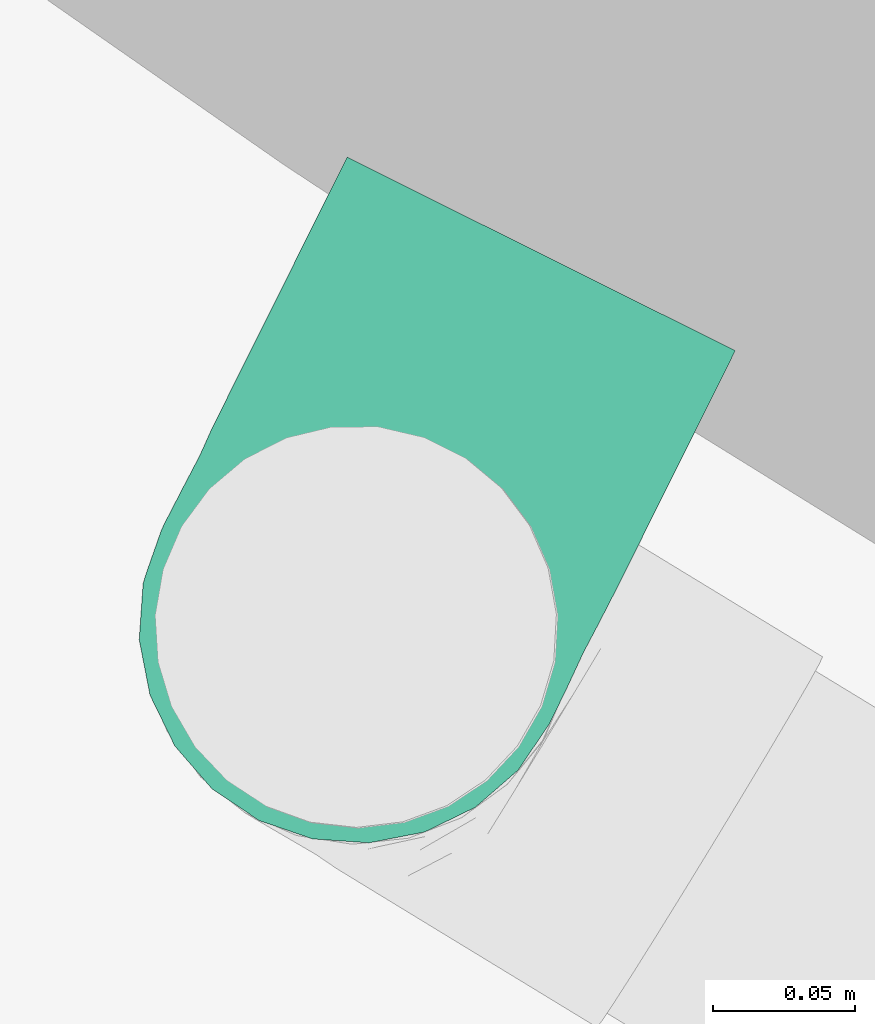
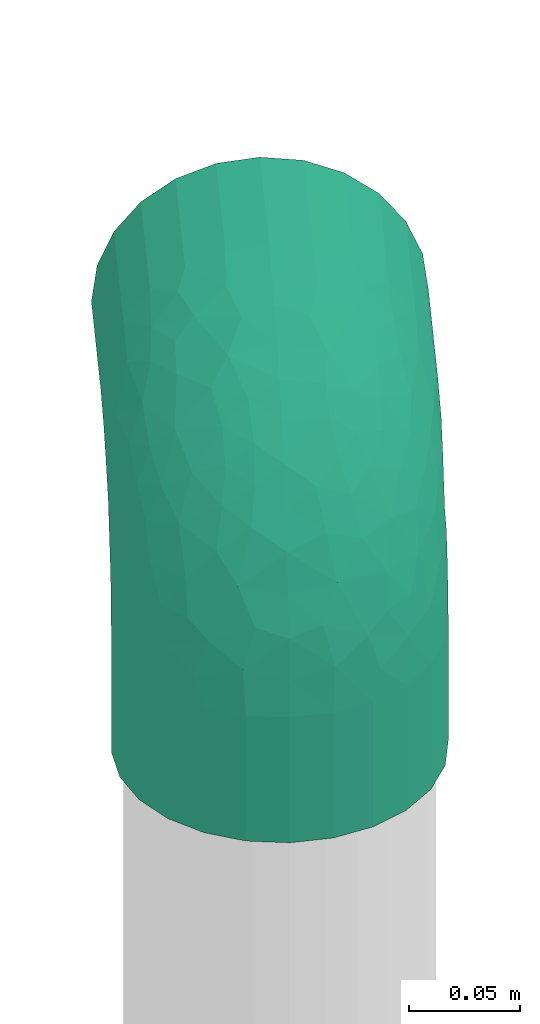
# One storey, part 44 of 47: 1 flow fitting.
"""IFC2X3 building model written with IfcOpenShell, lengths in metres."""

from ifc_helpers import new_model, entity, si_unit, converted_unit, derived_unit, direction, frame, origin, place, context, subcontext, project, spatial, faceted_brep, source, transform, mapped, type_object, type_shapes, element, save


model = new_model("IFC2X3")

# Units and contexts
model_context = context("Model", 3, precision=1e-05, world=origin(), true_north=direction((0.894925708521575, 0.446215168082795)))
context_of_model = context(None, 3, precision=1e-05, world=origin(), true_north=direction((0.894925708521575, 0.446215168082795)))
body_context = subcontext(model_context, "Body", "Model", "MODEL_VIEW")
ifc_project = project(units=[si_unit("LENGTHUNIT", "METRE"), si_unit("AREAUNIT", "SQUARE_METRE"), si_unit("VOLUMEUNIT", "CUBIC_METRE"), converted_unit("PLANEANGLEUNIT", "DEGREE", entity("IfcRatioMeasure", 0.0174532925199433), si_unit("PLANEANGLEUNIT", "RADIAN"), dimensions=[0, 0, 0, 0, 0, 0, 0]), si_unit("MASSUNIT", "GRAM", prefix="KILO"), si_unit("TIMEUNIT", "SECOND"), si_unit("FREQUENCYUNIT", "HERTZ"), si_unit("THERMODYNAMICTEMPERATUREUNIT", "DEGREE_CELSIUS"), derived_unit("THERMALTRANSMITTANCEUNIT", [(si_unit("MASSUNIT", "GRAM", prefix="KILO"), 1), (si_unit("THERMODYNAMICTEMPERATUREUNIT", "KELVIN"), -1), (si_unit("TIMEUNIT", "SECOND"), -3)]), derived_unit("VOLUMETRICFLOWRATEUNIT", [(si_unit("LENGTHUNIT", "METRE"), 3), (si_unit("TIMEUNIT", "SECOND"), -1)]), si_unit("ELECTRICCURRENTUNIT", "AMPERE"), si_unit("ELECTRICVOLTAGEUNIT", "VOLT"), si_unit("POWERUNIT", "WATT"), si_unit("FORCEUNIT", "NEWTON", prefix="KILO"), si_unit("ILLUMINANCEUNIT", "LUX"), si_unit("LUMINOUSFLUXUNIT", "LUMEN"), si_unit("LUMINOUSINTENSITYUNIT", "CANDELA"), si_unit("PRESSUREUNIT", "PASCAL")], contexts=[model_context, context_of_model])

# Site, building, storey
site_placement = place(None, frame((218.228324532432, 584.720189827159, 0.0), z_axis=(0.0, 0.0, 1.0), x_axis=(0.446215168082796, 0.894925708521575, 0.0)))
site = spatial("IfcSite", under=ifc_project, at=site_placement, Name="Default", CompositionType="ELEMENT")
building_placement = place(site_placement, origin())
building = spatial("IfcBuilding", under=site, at=building_placement, CompositionType="ELEMENT")
storey_placement = place(building_placement, frame((0.0, 0.0, 4.69)))
storey = spatial("IfcBuildingStorey", under=building, at=storey_placement, Name="1 - Piano Primo", CompositionType="ELEMENT", Elevation=4.69)

# Flow fitting
pipe_fitting_type = type_object("IfcPipeFittingType", Name="Standard", PredefinedType="NOTDEFINED")
shared_shape = source(origin(), body_context, "Body", "Brep", [
    faceted_brep([(-0.146258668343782, 0.0197274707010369, -0.073623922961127), (-0.14625866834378, 0.0, -0.0762210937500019), (-0.146258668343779, -0.0197274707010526, -0.0736239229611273), (-0.146258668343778, -0.0381105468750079, -0.0660094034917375), (-0.146258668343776, -0.0538964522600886, -0.0538964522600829), (-0.146258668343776, -0.0660094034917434, -0.0381105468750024), (-0.146258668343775, -0.0736239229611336, -0.0197274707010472), (-0.146258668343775, -0.0762210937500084, 0.0), (-0.146258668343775, -0.0736239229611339, 0.0197274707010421), (-0.146258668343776, -0.0660094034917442, 0.0381105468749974), (-0.146258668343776, -0.0538964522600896, 0.0538964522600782), (-0.146258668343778, -0.0381105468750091, 0.0660094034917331), (-0.146258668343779, -0.0197274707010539, 0.0736239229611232), (-0.14625866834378, 0.0, 0.0762210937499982), (-0.146258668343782, 0.0197274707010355, 0.0736239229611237), (-0.146258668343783, 0.0381105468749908, 0.0660094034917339), (-0.146258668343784, 0.0538964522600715, 0.0538964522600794), (-0.146258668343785, 0.0660094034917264, 0.0381105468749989), (-0.146258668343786, 0.0736239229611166, 0.0197274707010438), (-0.146258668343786, 0.0762210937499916, 0.0), (-0.146258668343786, 0.073623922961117, -0.0197274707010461), (-0.146258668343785, 0.0660094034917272, -0.0381105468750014), (-0.146258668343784, 0.0538964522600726, -0.0538964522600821), (-0.146258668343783, 0.0381105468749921, -0.0660094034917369), (-0.0770110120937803, -0.073623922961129, 0.0197274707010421), (-0.0770110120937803, -0.0660094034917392, 0.0381105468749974), (-0.0770110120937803, -0.0762210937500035, 0.0), (-0.0770110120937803, -0.0538964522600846, 0.0538964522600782), (-0.0770110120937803, -0.0381105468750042, 0.0660094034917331), (-0.0770110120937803, -0.019727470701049, 0.0736239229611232), (-0.0770110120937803, 0.0, 0.0762210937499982), (-0.0770110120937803, 0.0197274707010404, 0.0736239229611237), (-0.0770110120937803, 0.0381105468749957, 0.0660094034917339), (-0.0770110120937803, 0.0538964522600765, 0.0538964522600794), (-0.0770110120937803, 0.0660094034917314, 0.0381105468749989), (-0.0770110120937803, 0.0736239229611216, 0.0197274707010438), (-0.0770110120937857, 0.0762210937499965, 0.0), (-0.0770110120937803, 0.0736239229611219, -0.0197274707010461), (-0.0770110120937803, 0.0660094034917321, -0.0381105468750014), (-0.0770110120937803, 0.0538964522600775, -0.0538964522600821), (-0.0770110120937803, 0.038110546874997, -0.0660094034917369), (-0.0770110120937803, 0.0197274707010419, -0.073623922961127), (-0.0770110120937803, 0.0, -0.0762210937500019), (-0.0770110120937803, -0.0197274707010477, -0.0736239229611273), (-0.0770110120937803, -0.038110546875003, -0.0660094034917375), (-0.0770110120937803, -0.0538964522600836, -0.0538964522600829), (-0.0770110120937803, -0.0660094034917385, -0.0381105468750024), (-0.0770110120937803, -0.0736239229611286, -0.0197274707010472), (-0.052077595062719, -0.0505568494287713, 0.0548066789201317), (-0.0581726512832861, -0.0737410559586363, 0.0), (-0.053395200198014, -0.0714082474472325, 0.0209854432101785), (-0.0381067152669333, 0.0770129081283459, 0.0660094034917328), (-0.0538926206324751, 0.077013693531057, 0.0538964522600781), (-0.0427348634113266, 0.0610682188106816, 0.0653618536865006), (-0.0482753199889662, -0.0346316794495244, 0.0659168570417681), (-0.0348019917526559, -0.0442918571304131, 0.0562589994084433), (-0.0373518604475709, -0.0710000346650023, 0.0), (-0.0661072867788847, 0.0548845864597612, 0.0554052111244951), (-0.0623140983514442, -0.0626907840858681, 0.0422169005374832), (0.0505594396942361, 0.0520750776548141, 0.0548066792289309), (0.0549253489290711, 0.0349406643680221, 0.0450706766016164), (0.0629532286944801, 0.0425612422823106, 0.036104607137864), (-0.0240905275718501, 0.0542602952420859, 0.0737083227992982), (-0.0367745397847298, 0.0448904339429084, 0.0718192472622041), (-0.0579966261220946, -0.0149382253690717, 0.0743276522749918), (-0.0327553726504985, -0.0680825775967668, 0.0152416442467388), (-0.0425643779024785, -0.0629511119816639, 0.0361046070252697), (-0.0275729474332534, 0.02912154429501, 0.0757806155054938), (-0.043063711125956, 0.0321575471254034, 0.0733394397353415), (-0.0188735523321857, -0.0633463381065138, 0.0), (-0.000492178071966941, -0.0523766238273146, 0.0208670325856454), (0.0127248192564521, -0.04321406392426, 0.02188990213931), (-0.00154434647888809, -0.0469054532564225, 0.0342821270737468), (-0.0516380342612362, 0.00410406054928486, 0.0762208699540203), (-0.0347660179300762, -0.0160059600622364, 0.0719525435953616), (-0.057927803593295, 0.0243282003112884, 0.0732772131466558), (-0.0700353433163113, 0.0700388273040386, 0.0360638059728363), (-0.0197612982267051, -0.0318055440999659, 0.0608161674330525), (-0.0764497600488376, 0.0764535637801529, 0.0), (-0.0672449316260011, 0.0433806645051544, 0.0636110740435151), (0.0197313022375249, 0.0770100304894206, 0.0736239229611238), (0.0149411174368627, 0.0579958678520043, 0.0743276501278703), (0.0346340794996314, 0.0482735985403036, 0.0659168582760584), (-0.0736200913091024, 0.0770146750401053, 0.0197274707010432), (-0.0197236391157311, 0.0770119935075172, 0.073623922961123), (-0.00444143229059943, 0.05533673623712, 0.0762104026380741), (-0.0183505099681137, -0.0480767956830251, 0.0455035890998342), (-0.0046030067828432, -0.0403726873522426, 0.045824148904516), (-0.0587397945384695, 0.062304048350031, 0.0542332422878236), (3.83156089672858e-06, 0.0770110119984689, 0.0762210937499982), (0.0595730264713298, 0.0153752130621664, 0.0224695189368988), (0.0680842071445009, 0.0327519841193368, 0.0152416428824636), (0.0381143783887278, 0.0770091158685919, 0.0660094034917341), (0.0539002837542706, 0.0770083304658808, 0.0538964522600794), (0.0626938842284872, 0.0623109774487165, 0.0422169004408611), (0.0660132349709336, 0.0770077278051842, 0.0381105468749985), (0.0318065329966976, 0.0197597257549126, 0.0608161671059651), (0.0160076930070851, 0.03476520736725, 0.0719525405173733), (0.0714109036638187, 0.0533916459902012, 0.0209854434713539), (0.0736277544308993, 0.0770073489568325, 0.0197274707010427), (-0.0385602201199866, 0.0163991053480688, 0.076041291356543), (0.0737439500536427, 0.0581689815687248, 0.0), (-0.0660055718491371, 0.0770142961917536, 0.0381105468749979), (0.00829247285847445, -0.031202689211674, 0.0459925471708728), (0.0144576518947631, -0.0358970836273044, 0.0338398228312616), (0.0235282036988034, -0.0237578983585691, 0.0392566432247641), (-0.0245386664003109, 0.0052887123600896, 0.0752933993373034), (-0.0124014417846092, 0.0394306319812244, 0.076187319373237), (-0.0762172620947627, 0.0770148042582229, 0.0), (0.049550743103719, -0.00549299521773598, 0.0179967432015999), (0.0556926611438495, 0.000392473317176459, 0.0), (-0.004584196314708, 0.0220234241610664, 0.0749386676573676), (0.048077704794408, 0.0183481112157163, 0.0455035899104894), (0.0442935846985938, 0.0347997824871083, 0.0562590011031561), (0.00203149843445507, 0.0376124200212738, 0.075378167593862), (-0.0507463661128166, 0.0540901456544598, 0.0635044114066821), (-0.00039524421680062, -0.0556926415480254, 0.0), (-0.0153781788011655, -0.0595722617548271, 0.0224695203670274), (0.0710018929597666, 0.0373483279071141, 0.0), (0.0633472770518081, 0.0188704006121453, 0.0), (-0.0349434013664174, -0.0549236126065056, 0.0450706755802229), (-0.0534436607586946, 0.0430712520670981, 0.0673479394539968), (-0.0137009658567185, -0.0123484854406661, 0.0689439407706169), (0.0218607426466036, 0.00254769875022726, 0.0601902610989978), (0.0105619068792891, 0.0137053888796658, 0.0696118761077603), (0.00568813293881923, -0.00568842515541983, 0.0649173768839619), (-0.00649275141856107, 0.00395980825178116, 0.0721685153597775), (0.0154726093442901, -0.0435173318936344, 0.0), (0.0376057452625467, -0.0226733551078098, 0.0141884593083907), (0.0259789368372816, -0.0307814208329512, 0.0248041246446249), (0.0313404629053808, -0.0313420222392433, 0.0), (0.0363996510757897, -0.0162784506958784, 0.0305348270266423), (0.0341740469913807, -0.00153612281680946, 0.0481105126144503), (0.0462987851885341, 0.000782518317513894, 0.0345192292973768), (-0.00129296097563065, -0.0225375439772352, 0.0591592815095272), (0.0165762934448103, -0.0149315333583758, 0.0536089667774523), (0.0762249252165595, 0.0770072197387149, 0.0), (0.0435165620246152, -0.0154747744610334, 0.0), (-0.0542590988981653, 0.0240932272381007, -0.073708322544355), (0.0229956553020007, -0.037613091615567, -0.0129873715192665), (0.00572198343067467, -0.050291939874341, -0.014582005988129), (0.0134181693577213, -0.0406028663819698, -0.0268179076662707), (-0.0579966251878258, -0.0149382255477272, -0.0743276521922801), (0.0273403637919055, -0.028771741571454, -0.0261946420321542), (0.0372572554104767, -0.0232292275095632, -0.0136323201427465), (-0.0553365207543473, 0.00444418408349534, -0.0762104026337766), (-0.0197612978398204, -0.0318055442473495, -0.0608161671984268), (-0.0183505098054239, -0.0480767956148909, -0.0455035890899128), (-0.0348019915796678, -0.0442918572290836, -0.0562589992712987), (-0.0700353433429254, 0.0700388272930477, -0.0360638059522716), (-0.0736200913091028, 0.0770146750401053, -0.0197274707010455), (0.031806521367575, 0.0197597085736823, -0.060816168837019), (0.0160076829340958, 0.0347652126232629, -0.0719525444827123), (0.0346340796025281, 0.0482735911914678, -0.0659168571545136), (-0.0433773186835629, 0.0672470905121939, -0.0636110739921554), (-0.0538926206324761, 0.077013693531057, -0.0538964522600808), (-0.0381067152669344, 0.0770129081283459, -0.0660094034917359), (-0.0197236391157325, 0.0770119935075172, -0.0736239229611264), (-0.0243253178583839, 0.0579290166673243, -0.0732772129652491), (-0.0448886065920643, 0.0367767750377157, -0.0718192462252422), (-0.0291201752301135, 0.0275743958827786, -0.0757806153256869), (-0.0321554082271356, 0.0430653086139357, -0.0733394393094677), (-0.0163971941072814, 0.0385610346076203, -0.0760412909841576), (-0.0349434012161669, -0.0549236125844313, -0.0450706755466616), (-0.0153781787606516, -0.0595722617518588, -0.0224695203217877), (-0.0425643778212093, -0.0629511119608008, -0.0361046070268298), (-0.0220232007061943, 0.00458529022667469, -0.0749386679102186), (-0.0052874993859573, 0.0245389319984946, -0.0752934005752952), (-0.0533952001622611, -0.0714082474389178, -0.0209854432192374), (-0.0623011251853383, 0.058742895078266, -0.0542332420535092), (-0.0520775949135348, -0.0505568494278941, -0.05480667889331), (-0.0482753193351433, -0.0346316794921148, -0.0659168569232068), (-0.0327553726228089, -0.0680825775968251, -0.0152416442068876), (-0.0548812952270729, 0.0661100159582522, -0.055405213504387), (-0.0660055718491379, 0.0770142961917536, -0.0381105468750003), (-0.0623140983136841, -0.0626907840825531, -0.0422169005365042), (-0.0610660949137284, 0.0427379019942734, -0.0653618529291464), (0.0680842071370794, 0.0327519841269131, -0.0152416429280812), (0.0381143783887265, 0.0770091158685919, -0.0660094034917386), (0.0539002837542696, 0.0770083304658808, -0.0538964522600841), (0.0505594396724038, 0.0520750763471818, -0.0548066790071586), (-0.0376125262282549, -0.00202962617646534, -0.0753781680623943), (-0.00410149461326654, 0.0516382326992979, -0.076220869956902), (0.0736277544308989, 0.0770073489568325, -0.0197274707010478), (0.0714109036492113, 0.0533916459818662, -0.0209854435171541), (0.0660132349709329, 0.0770077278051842, -0.0381105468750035), (-0.0347660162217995, -0.016005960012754, -0.0719525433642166), (3.83156089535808e-06, 0.0770110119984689, -0.0762210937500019), (0.014941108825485, 0.0579958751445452, -0.0743276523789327), (0.0388466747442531, -0.0146605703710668, -0.0284160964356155), (0.0197313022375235, 0.0770100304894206, -0.0736239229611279), (0.0233881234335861, -0.0224175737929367, -0.0409459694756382), (0.0629532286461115, 0.0425612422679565, -0.0361046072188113), (0.0626938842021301, 0.0623109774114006, -0.0422169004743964), (0.0442935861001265, 0.0347997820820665, -0.0562589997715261), (-0.0394300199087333, 0.0124034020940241, -0.0761873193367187), (-0.0540876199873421, 0.0507490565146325, -0.0635044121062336), (0.0595730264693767, 0.0153752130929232, -0.0224695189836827), (0.0549253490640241, 0.0349406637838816, -0.0450706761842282), (-0.0430685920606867, 0.0534458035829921, -0.0673479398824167), (0.00744654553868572, 0.0129300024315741, -0.0704871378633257), (0.0205982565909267, 0.00482995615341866, -0.0619638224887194), (-0.013178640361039, -0.0156074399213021, -0.0674636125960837), (-0.00598604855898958, 0.00230596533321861, -0.071625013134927), (-0.00357008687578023, -0.050103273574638, -0.0306361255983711), (0.00377112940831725, -0.0332429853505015, -0.0474260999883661), (0.0480777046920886, 0.018348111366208, -0.0455035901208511), (0.0337262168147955, -0.00262691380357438, -0.0477787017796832), (0.0481532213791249, -0.00850397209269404, -0.0157540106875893), (0.0491638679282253, 0.00290870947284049, -0.0317075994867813), (0.000841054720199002, -0.0216138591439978, -0.0586858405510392), (0.0184583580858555, -0.0118741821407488, -0.0543596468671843), (0.00568813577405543, -0.00568842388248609, -0.064917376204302), (7.27686831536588e-06, 0.146258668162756, -0.0762210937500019), (-0.0197201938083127, 0.146259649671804, -0.073623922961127), (-0.038103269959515, 0.146260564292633, -0.0660094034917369), (-0.0538891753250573, 0.146261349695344, -0.0538964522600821), (-0.0660021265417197, 0.146261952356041, -0.0381105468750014), (-0.0736166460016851, 0.146262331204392, -0.0197274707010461), (-0.0762138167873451, 0.14626246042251, 0.0), (-0.0736166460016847, 0.146262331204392, 0.0197274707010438), (-0.066002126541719, 0.146261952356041, 0.0381105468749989), (-0.0538891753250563, 0.146261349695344, 0.0538964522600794), (-0.0381032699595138, 0.146260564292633, 0.0660094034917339), (-0.0197201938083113, 0.146259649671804, 0.0736239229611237), (7.27686831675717e-06, 0.146258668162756, 0.0762210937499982), (0.0197347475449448, 0.146257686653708, 0.0736239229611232), (0.0381178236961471, 0.146256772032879, 0.0660094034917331), (0.0539037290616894, 0.146255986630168, 0.0538964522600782), (0.0660166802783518, 0.146255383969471, 0.0381105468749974), (0.073631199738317, 0.14625500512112, 0.0197274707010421), (0.076228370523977, 0.146254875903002, 0.0), (0.0736311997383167, 0.14625500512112, -0.0197274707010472), (0.066016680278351, 0.146255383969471, -0.0381105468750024), (0.0539037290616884, 0.146255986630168, -0.0538964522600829), (0.0381178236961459, 0.146256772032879, -0.0660094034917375), (0.0197347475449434, 0.146257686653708, -0.0736239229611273)], [[[0, 1, 2, 3, 4, 5, 6, 7, 8, 9, 10, 11, 12, 13, 14, 15, 16, 17, 18, 19, 20, 21, 22, 23]], [[24, 25, 9, 8]], [[26, 24, 8, 7]], [[11, 10, 27, 28]], [[25, 27, 10, 9]], [[29, 12, 11, 28]], [[29, 30, 13, 12]], [[15, 14, 31, 32]], [[33, 16, 15, 32]], [[18, 17, 34, 35]], [[33, 34, 17, 16]], [[19, 18, 35, 36]], [[31, 14, 13, 30]], [[20, 19, 36, 37]], [[38, 21, 20, 37]], [[23, 22, 39, 40]], [[38, 39, 22, 21]], [[0, 23, 40, 41]], [[41, 42, 1, 0]], [[3, 2, 43, 44]], [[45, 4, 3, 44]], [[6, 5, 46, 47]], [[45, 46, 5, 4]], [[7, 6, 47, 26]], [[43, 2, 1, 42]], [[28, 27, 48]], [[49, 50, 24]], [[51, 52, 53]], [[54, 48, 55]], [[56, 50, 49]], [[57, 34, 33]], [[58, 27, 25]], [[59, 60, 61]], [[62, 53, 63]], [[28, 48, 54]], [[64, 30, 29]], [[50, 65, 66]], [[67, 63, 68]], [[69, 65, 56]], [[70, 71, 72]], [[30, 73, 31]], [[54, 74, 64]], [[31, 73, 75]], [[73, 30, 64]], [[53, 62, 51]], [[29, 28, 54]], [[34, 76, 35]], [[54, 55, 77]], [[78, 36, 35]], [[57, 33, 79]], [[80, 81, 82]], [[83, 78, 35]], [[84, 62, 85]], [[86, 72, 87]], [[52, 88, 53]], [[24, 50, 25]], [[85, 81, 89]], [[61, 90, 91]], [[92, 59, 93]], [[93, 94, 95]], [[92, 80, 82]], [[96, 82, 97]], [[98, 99, 95]], [[67, 68, 100]], [[82, 59, 92]], [[60, 90, 61]], [[98, 101, 99]], [[76, 88, 102]], [[103, 104, 105]], [[88, 52, 102]], [[62, 63, 67]], [[106, 73, 74]], [[35, 76, 83]], [[107, 85, 62]], [[108, 78, 83]], [[90, 109, 110]], [[85, 89, 84]], [[31, 75, 32]], [[67, 106, 111]], [[77, 74, 54]], [[79, 33, 32]], [[84, 51, 62]], [[96, 112, 113]], [[107, 67, 111]], [[89, 81, 80]], [[85, 114, 81]], [[115, 53, 88]], [[116, 117, 69]], [[58, 50, 66]], [[94, 98, 95]], [[118, 91, 119]], [[113, 59, 82]], [[94, 59, 61]], [[58, 48, 27]], [[120, 48, 66]], [[106, 67, 100]], [[79, 75, 121]], [[76, 34, 57]], [[102, 83, 76]], [[122, 74, 77]], [[123, 124, 125]], [[106, 122, 126]], [[111, 114, 107]], [[65, 50, 56]], [[127, 70, 116]], [[120, 117, 86]], [[128, 129, 130]], [[70, 72, 117]], [[128, 109, 131]], [[112, 96, 132]], [[119, 90, 110]], [[98, 91, 118]], [[109, 133, 131]], [[111, 126, 124]], [[132, 131, 133]], [[72, 71, 104]], [[77, 134, 122]], [[104, 71, 129]], [[103, 135, 134]], [[125, 135, 123]], [[135, 103, 105]], [[69, 117, 65]], [[66, 65, 117]], [[61, 91, 98]], [[90, 119, 91]], [[24, 26, 49]], [[101, 98, 118]], [[101, 136, 99]], [[82, 81, 97]], [[54, 64, 29]], [[73, 64, 74]], [[133, 90, 112]], [[109, 128, 137]], [[137, 128, 130]], [[137, 110, 109]], [[129, 128, 131]], [[129, 131, 105]], [[129, 71, 130]], [[131, 132, 105]], [[135, 125, 134]], [[105, 132, 135]], [[123, 132, 96]], [[134, 125, 122]], [[134, 77, 87]], [[126, 122, 125]], [[106, 74, 122]], [[132, 123, 135]], [[124, 96, 97]], [[96, 124, 123]], [[114, 124, 97]], [[124, 126, 125]], [[106, 126, 111]], [[90, 133, 109]], [[132, 133, 112]], [[105, 104, 129]], [[87, 72, 104]], [[87, 104, 103]], [[117, 72, 86]], [[117, 116, 70]], [[127, 130, 71]], [[115, 63, 53]], [[68, 63, 121]], [[121, 75, 68]], [[100, 75, 73]], [[75, 100, 68]], [[73, 106, 100]], [[67, 107, 62]], [[111, 124, 114]], [[81, 114, 97]], [[85, 107, 114]], [[134, 87, 103]], [[77, 86, 87]], [[75, 79, 32]], [[121, 115, 57]], [[121, 57, 79]], [[57, 88, 76]], [[50, 58, 25]], [[48, 58, 66]], [[59, 94, 93]], [[98, 94, 61]], [[57, 115, 88]], [[63, 115, 121]], [[96, 113, 82]], [[60, 113, 112]], [[113, 60, 59]], [[90, 60, 112]], [[117, 120, 66]], [[55, 120, 86]], [[120, 55, 48]], [[77, 55, 86]], [[70, 127, 71]], [[41, 40, 138]], [[139, 140, 141]], [[43, 42, 142]], [[143, 144, 139]], [[42, 41, 145]], [[146, 147, 148]], [[149, 37, 150]], [[151, 152, 153]], [[154, 155, 156]], [[157, 158, 156]], [[159, 160, 138]], [[160, 161, 162]], [[163, 164, 165]], [[166, 160, 167]], [[46, 168, 47]], [[149, 169, 38]], [[168, 49, 47]], [[160, 159, 161]], [[170, 44, 171]], [[170, 163, 165]], [[164, 172, 165]], [[44, 43, 171]], [[173, 174, 155]], [[175, 46, 45]], [[40, 39, 176]], [[45, 44, 170]], [[119, 177, 118]], [[178, 179, 180]], [[37, 36, 78]], [[145, 181, 142]], [[78, 108, 150]], [[167, 182, 152]], [[38, 37, 149]], [[183, 184, 185]], [[146, 171, 186]], [[154, 173, 155]], [[182, 187, 188]], [[143, 189, 144]], [[182, 157, 187]], [[153, 152, 188]], [[138, 40, 176]], [[182, 158, 157]], [[190, 178, 153]], [[190, 188, 187]], [[191, 143, 141]], [[43, 142, 171]], [[183, 136, 101]], [[177, 192, 184]], [[193, 179, 185]], [[178, 180, 153]], [[184, 183, 101]], [[39, 38, 169]], [[184, 101, 118]], [[153, 194, 151]], [[195, 145, 138]], [[153, 180, 194]], [[41, 138, 145]], [[138, 176, 159]], [[196, 176, 169]], [[150, 37, 78]], [[195, 160, 166]], [[39, 169, 176]], [[175, 168, 46]], [[56, 172, 69]], [[110, 197, 119]], [[193, 184, 192]], [[148, 170, 171]], [[175, 170, 165]], [[193, 180, 179]], [[198, 180, 192]], [[167, 160, 162]], [[154, 158, 199]], [[150, 174, 149]], [[149, 174, 173]], [[200, 152, 201]], [[202, 166, 203]], [[167, 200, 203]], [[166, 181, 195]], [[69, 164, 116]], [[168, 172, 56]], [[204, 141, 140]], [[205, 147, 146]], [[151, 206, 207]], [[141, 205, 191]], [[197, 208, 209]], [[177, 184, 118]], [[197, 110, 208]], [[198, 197, 206]], [[202, 186, 166]], [[205, 141, 204]], [[210, 146, 202]], [[211, 207, 191]], [[206, 209, 207]], [[152, 151, 201]], [[191, 207, 189]], [[207, 211, 201]], [[165, 172, 168]], [[164, 69, 172]], [[119, 197, 177]], [[192, 177, 197]], [[49, 168, 56]], [[49, 26, 47]], [[191, 189, 143]], [[205, 210, 211]], [[145, 142, 42]], [[171, 142, 186]], [[153, 188, 190]], [[182, 188, 152]], [[205, 211, 191]], [[201, 211, 212]], [[201, 212, 200]], [[207, 201, 151]], [[203, 200, 212]], [[152, 200, 167]], [[203, 212, 202]], [[167, 203, 166]], [[210, 202, 212]], [[146, 186, 202]], [[211, 210, 212]], [[146, 210, 205]], [[196, 159, 176]], [[161, 159, 199]], [[199, 158, 161]], [[162, 158, 182]], [[158, 162, 161]], [[182, 167, 162]], [[208, 137, 144]], [[130, 139, 144]], [[208, 144, 189]], [[143, 139, 141]], [[137, 130, 144]], [[208, 189, 209]], [[110, 137, 208]], [[207, 209, 189]], [[197, 209, 206]], [[116, 164, 140]], [[140, 127, 116]], [[204, 140, 164]], [[130, 127, 139]], [[140, 139, 127]], [[164, 147, 204]], [[205, 204, 147]], [[160, 195, 138]], [[181, 166, 186]], [[142, 181, 186]], [[145, 195, 181]], [[158, 154, 156]], [[199, 196, 173]], [[199, 173, 154]], [[173, 169, 149]], [[170, 175, 45]], [[168, 175, 165]], [[184, 193, 185]], [[180, 193, 192]], [[173, 196, 169]], [[159, 196, 199]], [[146, 148, 171]], [[163, 148, 147]], [[148, 163, 170]], [[164, 163, 147]], [[197, 198, 192]], [[194, 198, 206]], [[198, 194, 180]], [[151, 194, 206]], [[213, 214, 215, 216, 217, 218, 219, 220, 221, 222, 223, 224, 225, 226, 227, 228, 229, 230, 231, 232, 233, 234, 235, 236]], [[230, 229, 95, 99]], [[231, 230, 99, 136]], [[92, 93, 228, 227]], [[229, 228, 93, 95]], [[226, 80, 92, 227]], [[226, 225, 89, 80]], [[51, 84, 224, 223]], [[222, 52, 51, 223]], [[83, 102, 221, 220]], [[222, 221, 102, 52]], [[108, 83, 220, 219]], [[224, 84, 89, 225]], [[150, 108, 219, 218]], [[217, 174, 150, 218]], [[156, 155, 216, 215]], [[217, 216, 155, 174]], [[157, 156, 215, 214]], [[214, 213, 187, 157]], [[178, 190, 236, 235]], [[234, 179, 178, 235]], [[183, 185, 233, 232]], [[234, 233, 185, 179]], [[136, 183, 232, 231]], [[236, 190, 187, 213]]]),
])
type_shapes(pipe_fitting_type, [shared_shape])
flow_fitting_placement = place(storey_placement, frame((66.8552695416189, -2.52364491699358, 4.9275), z_axis=(0.0, -0.999999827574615, 0.000587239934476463), x_axis=(-1.0, 0.0, 0.0)))
element("IfcFlowFitting", 1, at=flow_fitting_placement, inside=storey, type_object=pipe_fitting_type, Name="M_Gomito - PVC - Sch 40:Standard", ObjectType="Standard", context=body_context, shape_type="MappedRepresentation", body=[
    mapped(shared_shape, transform((0.0, 0.0, 0.0), scale=1.0)),
])

save(model, "model.ifc")
